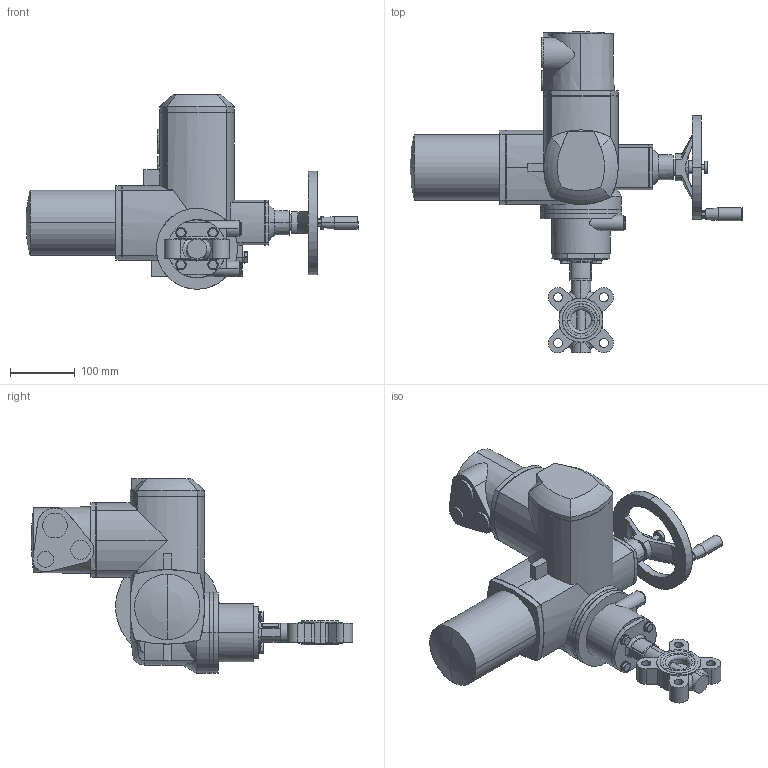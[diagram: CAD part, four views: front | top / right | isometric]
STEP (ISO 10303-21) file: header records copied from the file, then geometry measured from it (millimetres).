
FILE_DESCRIPTION (( 'STEP AP214' ), '1' );
FILE_NAME ('67526.step', '2020-10-23T13:45:08', ( '' ), ( '' ), 'SwSTEP 2.0', 'SolidWorks 2019', '' );
FILE_SCHEMA (( 'AUTOMOTIVE_DESIGN' ));
Length unit declared in the file: millimetre
Products named in the file (7): TL20-0032_M01; Gewindestift mit Kegelkuppe und In-6kt DIN 913 A4_Gewindestift mit In-6kt M5x10; U-Scheibe DIN 125 A_M8; 54377_SQ05.2 F05_F07-VK11; 67526; 6kt-Schr DIN 933_M8x20; SQ(R) 05.2_SQ 05.2 Drehstrommotor
Assembly tree (12 placements, depth 2):
  67526
    TL20-0032_M01
    U-Scheibe DIN 125 A_M8  x4
    6kt-Schr DIN 933_M8x20  x4
    SQ(R) 05.2_SQ 05.2 Drehstrommotor
    54377_SQ05.2 F05_F07-VK11
    Gewindestift mit Kegelkuppe und In-6kt DIN 913 A4_Gewindestift mit In-6kt M5x10
Bounding box: 512.7 x 496.33 x 300.3 mm (x, y, z)
Volume: 8205340.7 mm3; surface area: 438961.6 mm2
Topology: 12 solids, 12 shells, 704 faces, 1755 edges, 1109 vertices
Faces by surface type: plane 349, cylinder 219, cone 106, bspline 15, torus 11, sphere 4
Entity records: 26870 total; most frequent: CARTESIAN_POINT 7952, DIRECTION 3095, ORIENTED_EDGE 3088, EDGE_CURVE 1544, AXIS2_PLACEMENT_3D 1147, VERTEX_POINT 987, LINE 801, VECTOR 801
